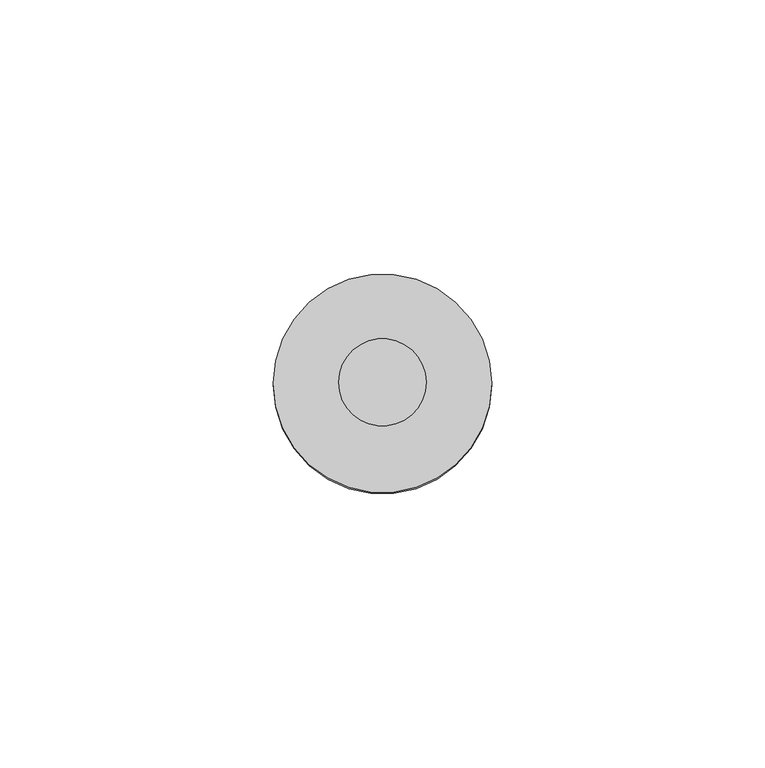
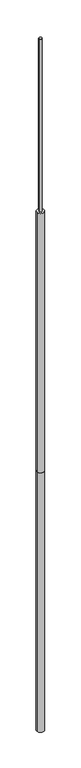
"""IFC4 building model written with IfcOpenShell, lengths in millimetres: proxy geometry, КНС_МачтаИзолированнаяМолниеприемная_DKC : NL4000HV_Нержавеющая сталь_4м."""

from ifc_helpers import new_model, si_unit, point, frame, origin, origin_with_axes, origin_2d, place, context, project, spatial, circle_curve, trimmed, segment, composite_curve, outline, extrude, source, transform, mapped, element, save


def security_devices_6ea39299(model_context):
    return source(origin(), model_context, "Body", "SweptSolid", [
        extrude(outline(composite_curve([segment(trimmed(circle_curve(origin_2d(), 8.0), [point((-8.0, 0.0))], [point((8.0, 0.0))], False, "CARTESIAN"), True, "CONTINUOUS"), segment(trimmed(circle_curve(origin_2d(), 8.0), [point((8.0, 0.0))], [point((-8.0, 0.0))], False, "CARTESIAN"), True, "CONTINUOUS")], self_intersect=False)), frame((0.0, 0.0, 3000.0), z_axis=(0.0, 0.0, 1.0), x_axis=(1.0, 0.0, 0.0)), (0.0, 0.0, 1.0), 1000.0),
        extrude(outline(composite_curve([segment(trimmed(circle_curve(origin_2d(), 20.0), [point((-20.0, 0.0))], [point((20.0, 0.0))], False, "CARTESIAN"), True, "CONTINUOUS"), segment(trimmed(circle_curve(origin_2d(), 20.0), [point((20.0, 0.0))], [point((-20.0, 0.0))], False, "CARTESIAN"), True, "CONTINUOUS")], self_intersect=False)), frame((0.0, 0.0, 1500.0), z_axis=(0.0, 0.0, 1.0), x_axis=(1.0, 0.0, 0.0)), (0.0, 0.0, 1.0), 1500.0),
        extrude(outline(composite_curve([segment(trimmed(circle_curve(origin_2d(), 20.0), [point((-20.0, 0.0))], [point((20.0, 0.0))], False, "CARTESIAN"), True, "CONTINUOUS"), segment(trimmed(circle_curve(origin_2d(), 20.0), [point((20.0, 0.0))], [point((-20.0, 0.0))], False, "CARTESIAN"), True, "CONTINUOUS")], self_intersect=False)), origin_with_axes(), (0.0, 0.0, 1.0), 1500.0),
    ])


if __name__ == "__main__":
    model = new_model("IFC4")
    model_context = context("Model", 3, world=origin())
    ifc_project = project(units=[si_unit("LENGTHUNIT", "METRE", prefix="MILLI")], contexts=[model_context])
    site = spatial("IfcSite", under=ifc_project)
    building = spatial("IfcBuilding", under=site)
    placement = place(None, origin())
    security_devices_shape = security_devices_6ea39299(model_context)
    element("IfcBuildingElementProxy", 1, Name="КНС_МачтаИзолированнаяМолниеприемная_DKC : NL4000HV_Нержавеющая сталь_4м", ObjectType="КНС_МачтаИзолированнаяМолниеприемная_DKC : NL4000HV_Нержавеющая сталь_4м", at=placement, inside=building, context=model_context, shape_type="MappedRepresentation", body=[
        mapped(security_devices_shape, transform((0.0, 0.0, 0.0), x_axis=(1.0, 0.0, 0.0), y_axis=(0.0, 1.0, 0.0), z_axis=(0.0, 0.0, 1.0))),
    ])
    save(model, "model.ifc")
